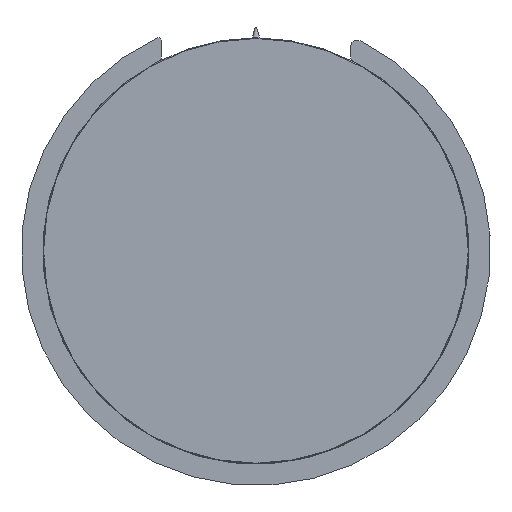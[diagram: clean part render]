
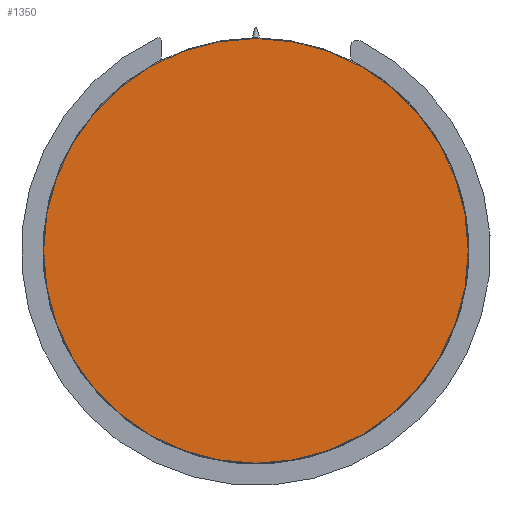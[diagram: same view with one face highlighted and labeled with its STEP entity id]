
A CAD part, left-side view. The second image highlights one B-rep face of the part: STEP entity #1350.
In plain terms, the highlighted planar face has unit normal (-1, 0, 0).
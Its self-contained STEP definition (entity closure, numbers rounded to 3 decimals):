
#1350=ADVANCED_FACE('', (#1360), #1370, .T.);
#2610=AXIS2_PLACEMENT_3D('Ax2Pl3d', #2620, #2630, #2640);
#4410=AXIS2_PLACEMENT_3D('Ax2Pl3d', #4420, #4430, #4440);
#2620=CARTESIAN_POINT('HicPkt', (-70.115,17.787,
71.383));
#30490=CARTESIAN_POINT('', (-70.115,9.914,71.383))
;
#4420=CARTESIAN_POINT('HicPkt', (-70.115,17.787,
71.383));
#31020=CIRCLE('Circle', #2610, 7.873);
#2630=DIRECTION('Axis', (-1.,0.,0.))
;
#2640=DIRECTION('RefDirection', (0.,
0.,-1.));
#4430=DIRECTION('Axis', (-1.,0.,0.))
;
#4440=DIRECTION('RefDirection', (0.,
0.,-1.));
#34010=EDGE_CURVE('', #34020, #34020, #31020, .T.);
#36420=EDGE_LOOP('Edge_loop', (#36430));
#1360=FACE_OUTER_BOUND('Face_outer_bound', #36420, .T.);
#36430=ORIENTED_EDGE('', *, *, #34010, .T.);
#1370=PLANE('Plane', #4410);
#34020=VERTEX_POINT('', #30490);
